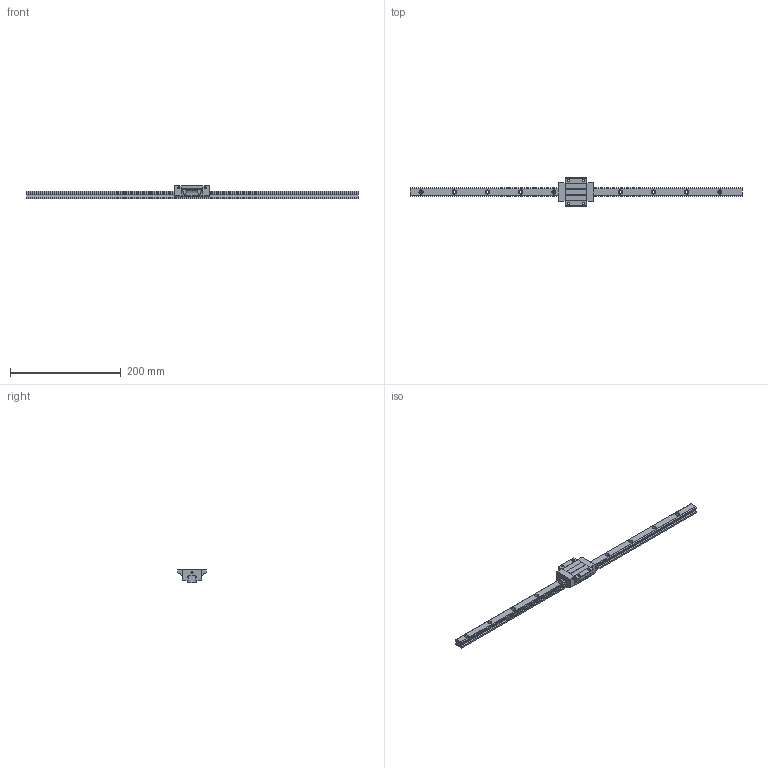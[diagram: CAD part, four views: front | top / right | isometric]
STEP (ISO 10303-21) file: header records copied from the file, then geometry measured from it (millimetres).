
FILE_DESCRIPTION (( 'STEP AP203' ), '1' );
FILE_NAME ('TRS15FN-ZN.STEP', '2024-05-22T08:14:54', ( '' ), ( '' ), 'SwSTEP 2.0', 'SolidWorks 2022', '' );
FILE_SCHEMA (( 'CONFIG_CONTROL_DESIGN' ));
Length unit declared in the file: millimetre
Products named in the file (1): TRS15FN-ZN
Bounding box: 600 x 52 x 24 mm (x, y, z)
Volume: 141216.3 mm3; surface area: 48659.7 mm2
Topology: 2 solids, 2 shells, 238 faces, 638 edges, 416 vertices
Faces by surface type: cylinder 130, plane 104, sphere 4
Entity records: 8103 total; most frequent: CARTESIAN_POINT 1891, DIRECTION 1306, ORIENTED_EDGE 1268, EDGE_CURVE 634, AXIS2_PLACEMENT_3D 467, VERTEX_POINT 416, LINE 372, VECTOR 372
